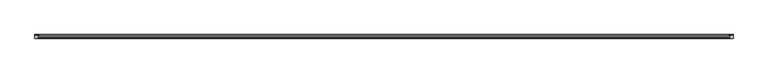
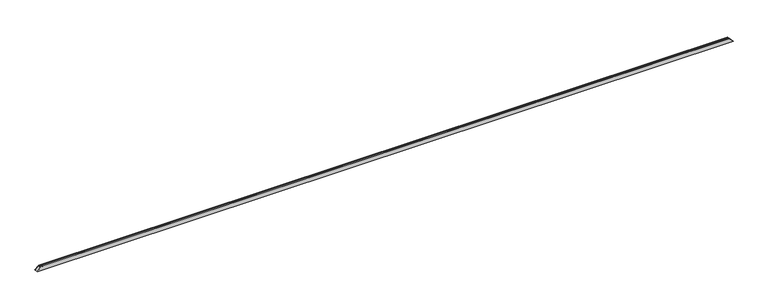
"""IFC4 building model written with IfcOpenShell, lengths in millimetres: proxy geometry, Weiku - Montante - Caixilho 02.2.01.005 : Weiku - Montante - Caixilho 02.2.01.005."""

from ifc_helpers import new_model, si_unit, frame, origin, place, context, project, spatial, ellipse_curve, faceted_brep, source, transform, mapped, element, save
from ifc_brep_helpers import plane_surface, cylinder_surface, advanced_brep


def generic_models_2309786d(model_context):
    return source(origin(), model_context, "Body", "SolidModel", [
        faceted_brep([(-4962.0, 43.5137905, 0.0), (-4962.0, 50.0, 0.0), (-4913.0, 50.0, 49.0), (-4913.0, 43.5137905, 49.0), (-4911.0, 43.5137905, 51.0), (-4911.0, 52.0, 51.0), (-4963.0, 52.0, -1.0), (-4963.0, 43.5137905, -1.0), (4962.0, 50.0, 0.0), (4962.0, 43.5137905, 0.0), (4963.0, 43.5137905, -1.0), (4963.0, 52.0, -1.0), (4911.0, 52.0, 51.0), (4911.0, 43.5137905, 51.0), (4913.0, 43.5137905, 49.0), (4913.0, 50.0, 49.0)], [[[0, 1, 2, 3, 4, 5, 6, 7]], [[8, 9, 10, 11, 12, 13, 14, 15]], [[1, 0, 9, 8]], [[2, 1, 8, 15]], [[3, 2, 15, 14]], [[4, 3, 14, 13]], [[5, 4, 13, 12]], [[6, 5, 12, 11]], [[7, 6, 11, 10]], [[0, 7, 10, 9]]]),
        advanced_brep(
        [(-4916.0, 12.5, 46.0), (-4895.8909676, 12.5, 66.1090324), (4895.8909676, 12.5, 66.1090324), (4916.0, 12.5, 46.0), (-4916.0, 37.8314286, 46.0), (4916.0, 37.8314286, 46.0), (-4913.0, 37.027581, 49.0), (4913.0, 37.027581, 49.0), (-4913.0, 50.0, 49.0), (4913.0, 50.0, 49.0), (4962.0, 50.0, 0.0), (-4962.0, 50.0, 0.0), (4962.0, 0.0, 0.0), (-4962.0, 0.0, 0.0), (4900.4997332, 0.0, 61.5002668), (-4900.4997332, 0.0, 61.5002668), (-4895.118227, 11.4929448, 66.881773), (-4897.6019557, 2.2235429, 64.3980443), (4897.6019557, 2.2235429, 64.3980443), (4895.118227, 11.4929448, 66.881773)],
        [
            (0, 1),
            (1, 2),
            (2, 3),
            (3, 0),
            (4, 0),
            (3, 5),
            (5, 4),
            (6, 4),
            (5, 7),
            (7, 6),
            (8, 6),
            (7, 9),
            (9, 8),
            (10, 11),
            (11, 8),
            (9, 10),
            (10, 12),
            (12, 13),
            (13, 11),
            (12, 14),
            (14, 15),
            (15, 13),
            (16, 17),
            (17, 18),
            (18, 19),
            (19, 16),
            (15, 17, ellipse_curve(frame((-4900.4997332, 3.0, 61.5002668), z_axis=(-0.7071067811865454, 0.0, 0.7071067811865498), x_axis=(-0.7071067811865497, 0.0, -0.7071067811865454)), 4.2426407, 3.0)),
            (16, 1, ellipse_curve(frame((-4895.8909676, 11.7, 66.1090324), z_axis=(-0.7071067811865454, 0.0, 0.7071067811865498), x_axis=(-0.7071067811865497, 0.0, -0.7071067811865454)), 1.1313708, 0.8)),
            (2, 19, ellipse_curve(frame((4895.8909676, 11.7, 66.1090324), z_axis=(0.7071067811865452, 0.0, 0.7071067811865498), x_axis=(-0.7071067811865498, 0.0, 0.7071067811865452)), 1.1313708, 0.8)),
            (18, 14, ellipse_curve(frame((4900.4997332, 3.0, 61.5002668), z_axis=(0.7071067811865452, 0.0, 0.7071067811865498), x_axis=(-0.7071067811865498, 0.0, 0.7071067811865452)), 4.2426407, 3.0)),
        ],
        [
            plane_surface(frame((-4962.0, 12.5, 66.1090324), z_axis=(0.0, 1.0, 0.0), x_axis=(1.0, 0.0, 0.0))),
            plane_surface(frame((-4962.0, 12.5, 46.0), z_axis=(0.0, 0.0, 1.0), x_axis=(1.0, 0.0, 0.0))),
            plane_surface(frame((-4962.0, 37.8314286, 46.0), z_axis=(0.0, -0.9659258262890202, -0.2588190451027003), x_axis=(1.0, 0.0, 0.0))),
            plane_surface(frame((-4962.0, 37.027581, 49.0), z_axis=(0.0, 0.0, 1.0), x_axis=(1.0, 0.0, 0.0))),
            plane_surface(frame((-4962.0, 50.0, 49.0), z_axis=(0.0, 1.0, 0.0), x_axis=(1.0, 0.0, 0.0))),
            plane_surface(frame((-4962.0, 50.0, 0.0), z_axis=(0.0, 0.0, -1.0), x_axis=(1.0, 0.0, 0.0))),
            plane_surface(frame((-4962.0, 0.0, 0.0), z_axis=(0.0, -1.0, 0.0), x_axis=(1.0, 0.0, 0.0))),
            plane_surface(frame((-4962.0, 2.2235429, 64.3980443), z_axis=(0.0, -0.2588190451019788, 0.9659258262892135), x_axis=(1.0, 0.0, 0.0))),
            plane_surface(frame((-5032.0, -15.0, -70.0), z_axis=(-0.7071067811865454, 0.0, 0.7071067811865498), x_axis=(0.0, 1.0, 0.0))),
            plane_surface(frame((4892.0, -15.0, 70.0), z_axis=(0.7071067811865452, 0.0, 0.7071067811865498), x_axis=(0.0, 1.0, 0.0))),
            cylinder_surface(frame((-4962.0, 11.7, 66.1090324), z_axis=(-1.0, 0.0, 0.0), x_axis=(0.0, 1.0, 0.0)), 0.8),
            cylinder_surface(frame((-4962.0, 3.0, 61.5002668), z_axis=(-1.0, 0.0, 0.0), x_axis=(0.0, 1.0, 0.0)), 3.0),
        ],
        [
            (0, [[1, 2, 3, 4]]),
            (1, [[5, -4, 6, 7]]),
            (2, [[8, -7, 9, 10]]),
            (3, [[11, -10, 12, 13]]),
            (4, [[14, 15, -13, 16]]),
            (5, [[-14, 17, 18, 19]]),
            (6, [[-18, 20, 21, 22]]),
            (7, [[23, 24, 25, 26]]),
            (8, [[-1, -5, -8, -11, -15, -19, -22, 27, -23, 28]]),
            (9, [[-3, 29, -25, 30, -20, -17, -16, -12, -9, -6]]),
            (10, [[-28, -26, -29, -2]]),
            (11, [[-27, -21, -30, -24]]),
        ],
    ),
    ])


if __name__ == "__main__":
    model = new_model("IFC4")
    model_context = context("Model", 3, world=origin())
    ifc_project = project(units=[si_unit("LENGTHUNIT", "METRE", prefix="MILLI")], contexts=[model_context])
    site = spatial("IfcSite", under=ifc_project)
    building = spatial("IfcBuilding", under=site)
    placement = place(None, origin())
    generic_models_shape = generic_models_2309786d(model_context)
    element("IfcBuildingElementProxy", 1, Name="Weiku - Montante - Caixilho 02.2.01.005 : Weiku - Montante - Caixilho 02.2.01.005", ObjectType="Weiku - Montante - Caixilho 02.2.01.005 : Weiku - Montante - Caixilho 02.2.01.005", at=placement, inside=building, context=model_context, shape_type="MappedRepresentation", body=[
        mapped(generic_models_shape, transform((0.0, 0.0, 0.0), x_axis=(1.0, 0.0, 0.0), y_axis=(0.0, 1.0, 0.0), z_axis=(0.0, 0.0, 1.0))),
    ])
    save(model, "model.ifc")
